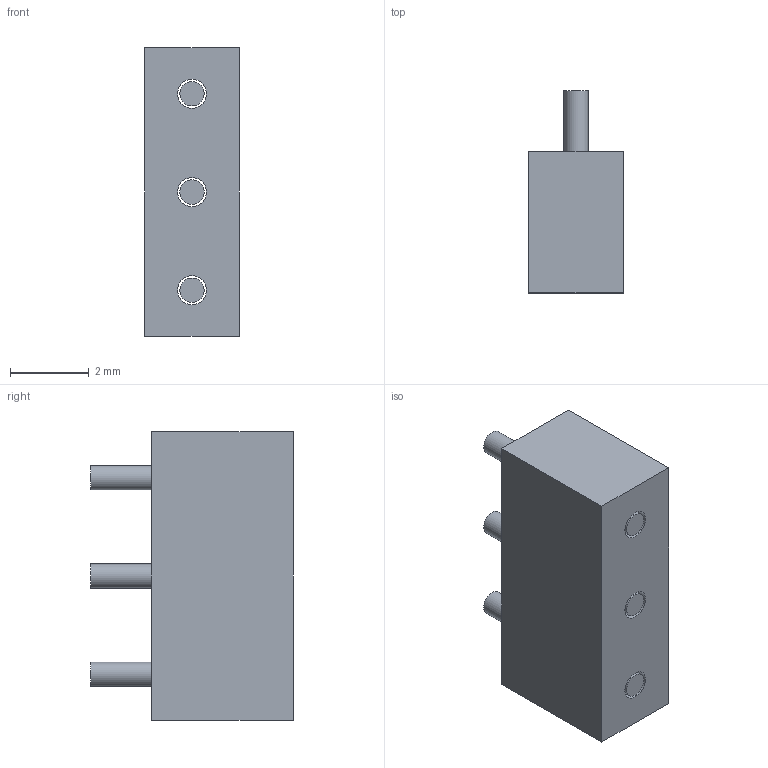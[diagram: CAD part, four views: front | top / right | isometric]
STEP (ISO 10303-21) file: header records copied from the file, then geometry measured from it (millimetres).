
FILE_DESCRIPTION(('Open CASCADE Model'),'2;1');
FILE_NAME('force-adc-board-to-board-header.step','2026-11-14T16:20:54',( 'Author'),('Open CASCADE'),'Open CASCADE STEP processor 8.0', 'Open CASCADE 8.0','Unknown');
FILE_SCHEMA(('AP242_MANAGED_MODEL_BASED_3D_ENGINEERING_MIM_LF {1 0 10303 442 1 1 4 }' ));
Length unit declared in the file: millimetre
Products named in the file (1): Force ADC Board-to-Board Header
Bounding box: 2.4 x 5.15 x 7.35 mm (x, y, z)
Volume: 63.5 mm3; surface area: 159.9 mm2
Topology: 4 solids, 4 shells, 18 faces, 30 edges, 20 vertices
Faces by surface type: plane 12, cylinder 6
Full cylindrical faces by diameter (mm): 0.62 x3, 0.74 x3
Entity records: 863 total; most frequent: DIRECTION 140, CARTESIAN_POINT 129, LINE 66, VECTOR 66, ORIENTED_EDGE 60, PCURVE 60, DEFINITIONAL_REPRESENTATION 60, AXIS2_PLACEMENT_3D 31
